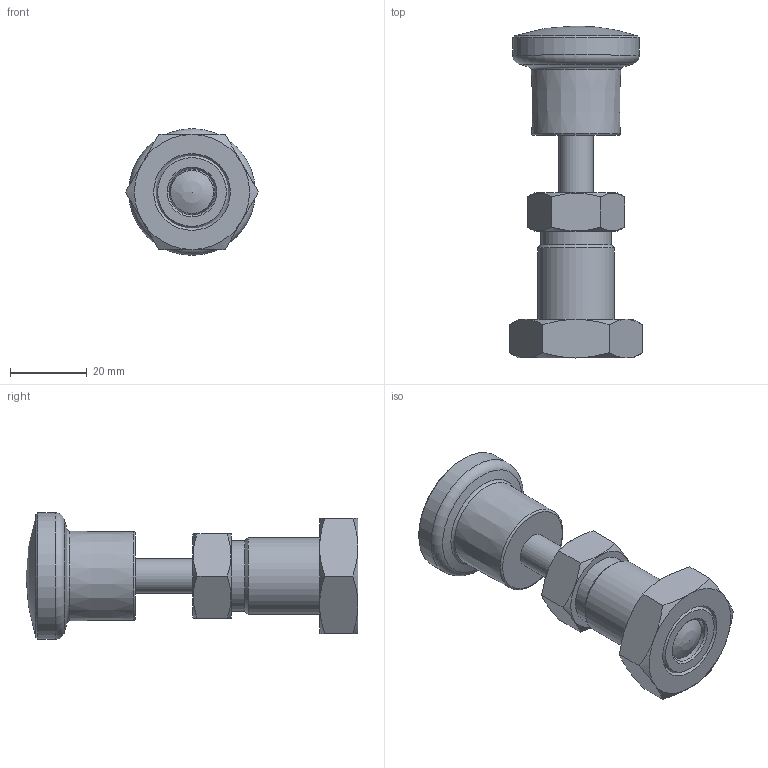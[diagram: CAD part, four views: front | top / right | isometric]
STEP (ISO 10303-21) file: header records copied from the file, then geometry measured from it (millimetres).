
FILE_DESCRIPTION( ( 'STEP AP203' ), '1' );
FILE_NAME( 'C:/Temp/Ganter_Step_05_03_2020/data/3_1/gn817/gn817_ni-rastbolzen_rot/Stainless Steel-Indexing plunger GN 817-12-15-BK-NI-RT (activated-0).stp', '2020-03-12T09:00:36', ( 'License CC BY-ND 4.0' ), ( 'CADENAS' ), ' ', 'PARTsolutions', ' ' );
FILE_SCHEMA( ( 'CONFIG_CONTROL_DESIGN' ) );
Length unit declared in the file: millimetre
Products named in the file (5): Stainless Steel-Indexing plunger GN 817-12-15-BK-NI-RT (activated-0); _Stainless steel-Indexing plunger GN 817-12-15-BK-NI-RT (activated-0)-d; _Stainless steel-Indexing plunger GN 817-12-15-B-NI-RT-2; _Stainless Steel Indexing plunger GN 817-12-15-B-NI-RT-1; _Stainless steel-Indexing plunger GN 817-12-15-BK-NI-RT (deactivated-0)-3
Assembly tree (4 placements, depth 2):
  Stainless Steel-Indexing plunger GN 817-12-15-BK-NI-RT (activated-0)
    _Stainless steel-Indexing plunger GN 817-12-15-BK-NI-RT (activated-0)-d
    _Stainless steel-Indexing plunger GN 817-12-15-B-NI-RT-2
    _Stainless Steel Indexing plunger GN 817-12-15-B-NI-RT-1
    _Stainless steel-Indexing plunger GN 817-12-15-BK-NI-RT (deactivated-0)-3
Bounding box: 34.64 x 86.5 x 33 mm (x, y, z)
Volume: 35340 mm3; surface area: 13257 mm2
Topology: 3 solids, 3 shells, 59 faces, 125 edges, 75 vertices
Faces by surface type: cone 24, plane 20, cylinder 8, torus 5, sphere 2
Full cylindrical faces by diameter (mm): 9 x2, 12 x2, 18.3 x1, 18.376 x1, 20 x1, 33 x1
Entity records: 1768 total; most frequent: CARTESIAN_POINT 511, DIRECTION 228, ORIENTED_EDGE 184, AXIS2_PLACEMENT_3D 108, EDGE_LOOP 92, EDGE_CURVE 92, FACE_OUTER_BOUND 72, VERTEX_POINT 70
